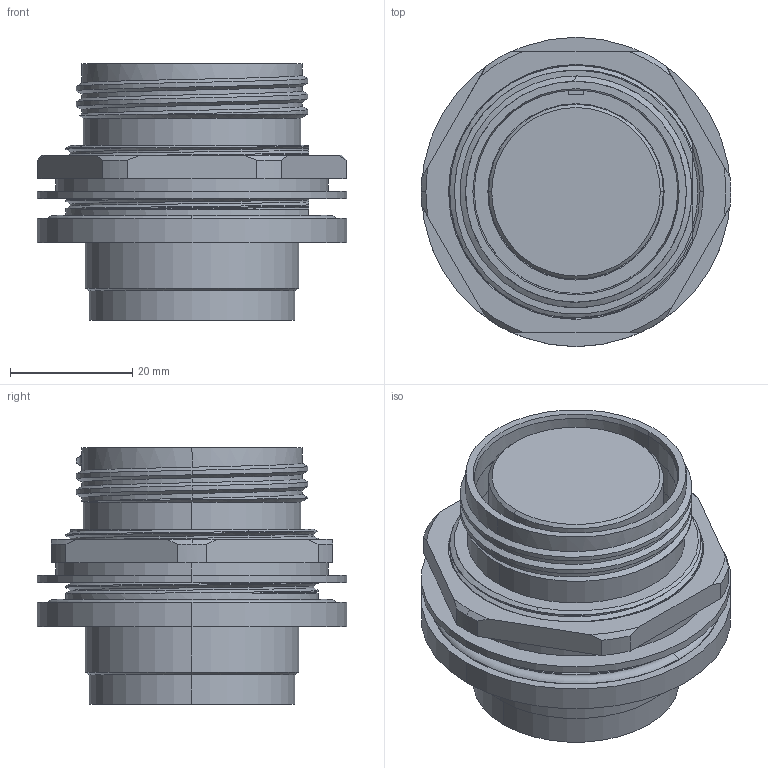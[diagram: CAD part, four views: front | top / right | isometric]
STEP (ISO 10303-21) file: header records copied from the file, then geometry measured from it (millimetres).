
FILE_DESCRIPTION (( 'STEP AP214' ), '1' );
FILE_NAME ('QLINK-RJTX-23XX-S00.STEP', '2025-09-30T21:47:03', ( '' ), ( '' ), 'SwSTEP 2.0', 'SolidWorks 2024', '' );
FILE_SCHEMA (( 'AUTOMOTIVE_DESIGN' ));
Length unit declared in the file: inch
Products named in the file (1): QLINK-RJTX-23XX-S00
Bounding box: 50.55 x 50.55 x 41.91 mm (x, y, z)
Volume: 44078.5 mm3; surface area: 19481.9 mm2
Topology: 3 solids, 3 shells, 179 faces, 470 edges, 305 vertices
Faces by surface type: cylinder 74, plane 35, bspline 30, cone 26, torus 14
Entity records: 14587 total; most frequent: CARTESIAN_POINT 10504, ORIENTED_EDGE 940, DIRECTION 758, EDGE_CURVE 470, AXIS2_PLACEMENT_3D 312, VERTEX_POINT 305, EDGE_LOOP 197, FACE_OUTER_BOUND 179
